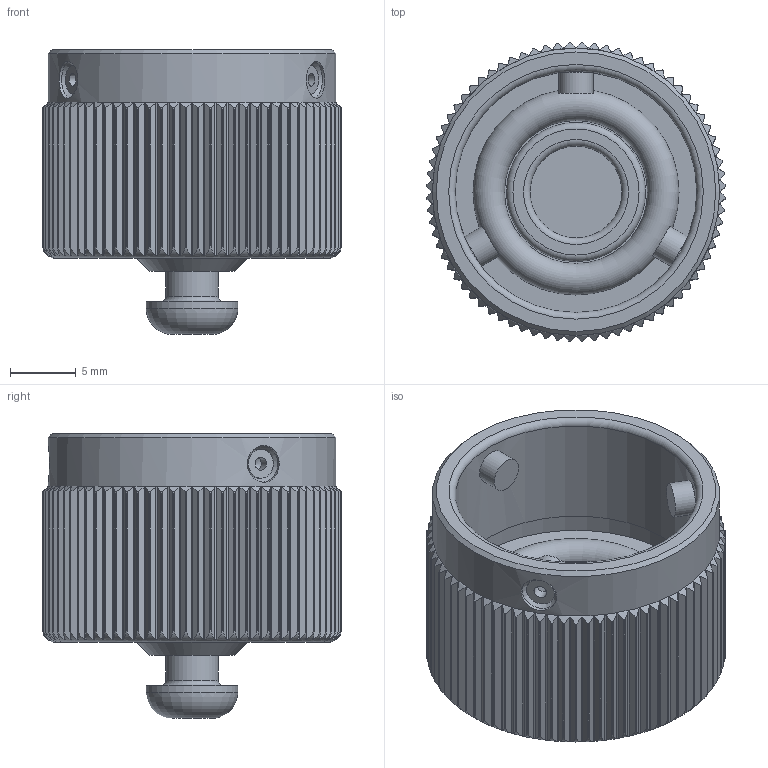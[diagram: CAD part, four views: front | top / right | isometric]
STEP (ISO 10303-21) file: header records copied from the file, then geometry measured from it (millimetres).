
FILE_DESCRIPTION (( 'STEP AP203' ), '1' );
FILE_NAME ('DCARC-10SL-.STEP', '2021-06-16T03:53:20', ( '' ), ( '' ), 'SwSTEP 2.0', 'SolidWorks 2018', '' );
FILE_SCHEMA (( 'CONFIG_CONTROL_DESIGN' ));
Length unit declared in the file: millimetre
Products named in the file (1): DCARC-10SL-
Bounding box: 22.78 x 22.78 x 21.7 mm (x, y, z)
Volume: 3455.6 mm3; surface area: 3164.7 mm2
Topology: 1 solids, 1 shells, 513 faces, 1472 edges, 978 vertices
Faces by surface type: cylinder 326, plane 171, cone 9, torus 7
Full cylindrical faces by diameter (mm): 1 x3, 2.2 x6, 2.6 x3, 2.8 x3, 4 x1, 7 x2, 10.6 x1, 18.4 x1, 19.6 x1, 21.9 x1
Entity records: 19973 total; most frequent: CARTESIAN_POINT 8014, ORIENTED_EDGE 2846, DIRECTION 1886, EDGE_CURVE 1423, VERTEX_POINT 967, B_SPLINE_CURVE_WITH_KNOTS 766, AXIS2_PLACEMENT_3D 715, EDGE_LOOP 568
